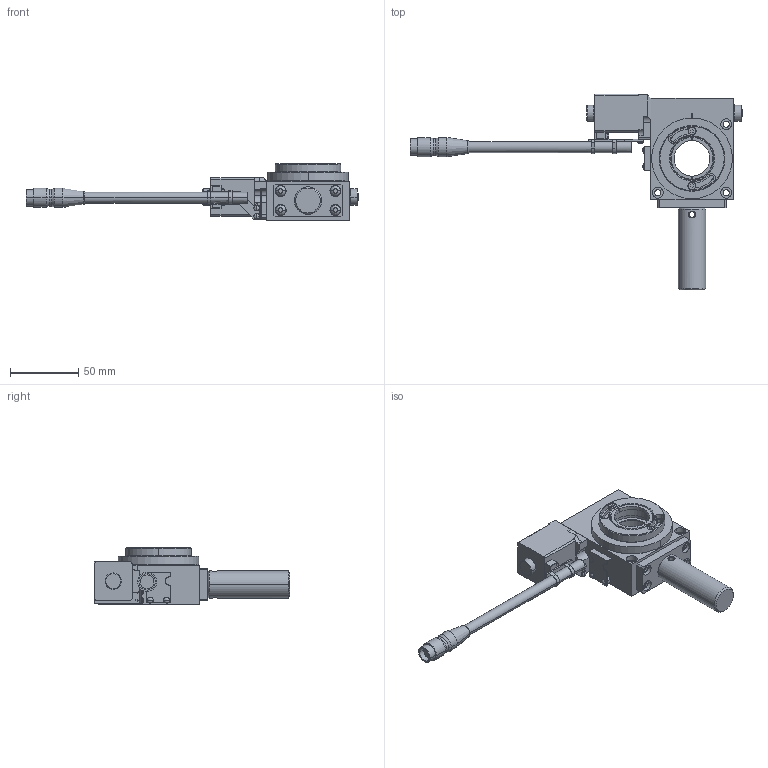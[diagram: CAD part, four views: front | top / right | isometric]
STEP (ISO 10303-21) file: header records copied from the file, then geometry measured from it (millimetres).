
FILE_DESCRIPTION(('STEP AP203'),'1');
FILE_NAME('C:\3D-trans/3D_FPW06360C-30+240902.step','2024-09-02T07:25:58',(' '),(' '),'Spatial InterOp 3D',' ',' ');
FILE_SCHEMA(('CONFIG_CONTROL_DESIGN'));
Length unit declared in the file: millimetre
Products named in the file (14): 1; 2; 3; 4; 5; 6; 7; 8; 9; 10; 11; 12; 13; 14
Bounding box: 242.5 x 143 x 41.5 mm (x, y, z)
Volume: 192944.3 mm3; surface area: 58289.9 mm2
Topology: 14 solids, 14 shells, 545 faces, 1349 edges, 861 vertices
Faces by surface type: plane 233, cylinder 214, cone 68, sphere 16, torus 10, bspline 4
Entity records: 17281 total; most frequent: CARTESIAN_POINT 3265, DIRECTION 2969, ORIENTED_EDGE 2666, EDGE_CURVE 1333, AXIS2_PLACEMENT_3D 1113, VERTEX_POINT 861, LINE 743, VECTOR 743
